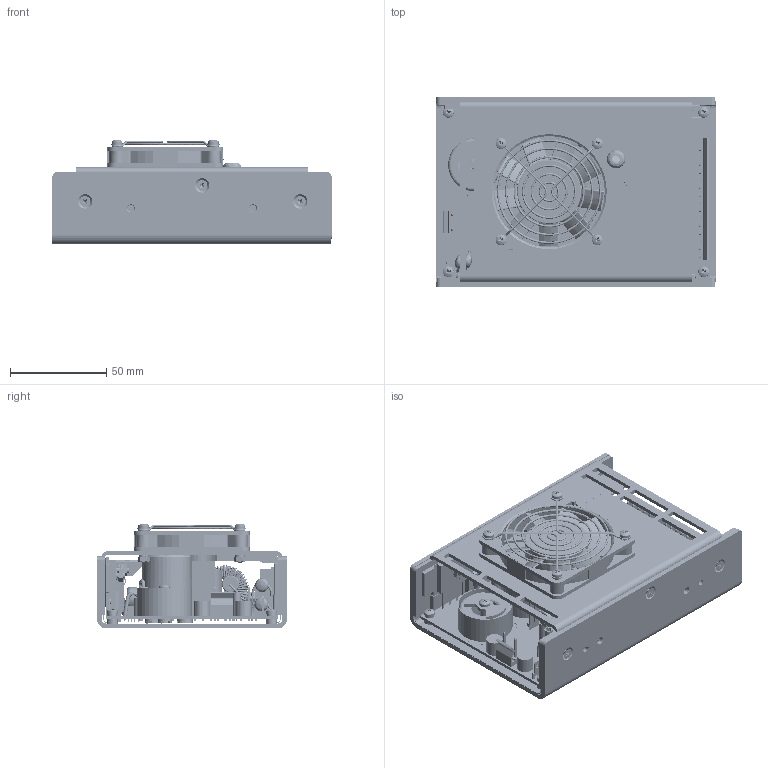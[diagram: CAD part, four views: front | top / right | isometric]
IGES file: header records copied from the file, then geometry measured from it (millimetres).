
Start section: SolidWorks IGES file using analytic representation for surfaces
Global section: file name: H:\RCL175\MECHANICAL\3D MODELS TO XP WEBSITE\RCL175-F.IGS; native system: SolidWorks 2017; preprocessor: SolidWorks 2017; author: rblackmore; date: 181019.100051; units: millimetre
Bounding box: 145.06 x 99 x 54.4 mm (x, y, z)
Surface area: 259996 mm2 (no closed solid volume)
Topology: 0 solids, 0 shells, 6405 faces, 56393 edges, 56395 vertices
Faces by surface type: bspline 4345, revolution 2060
